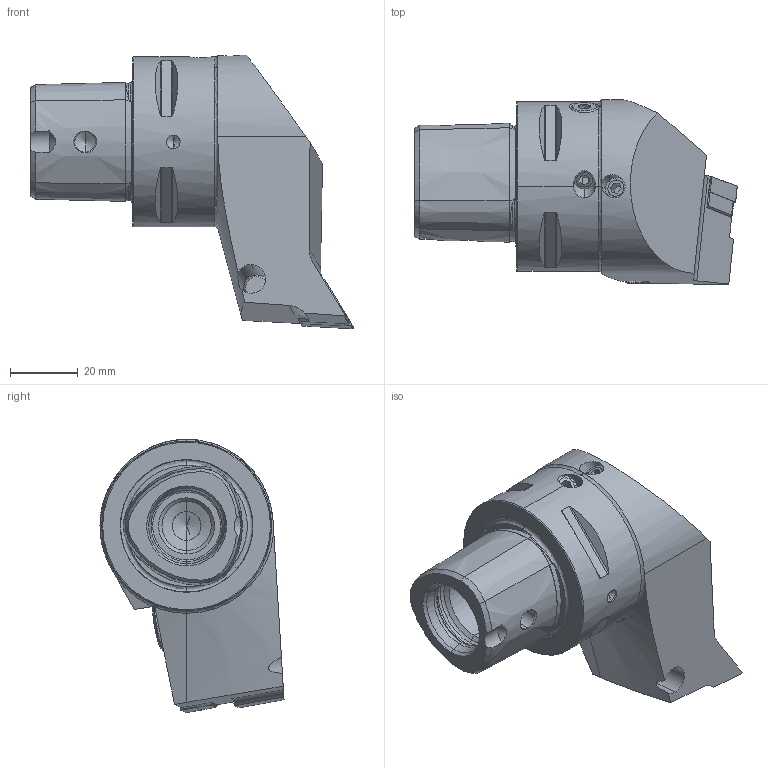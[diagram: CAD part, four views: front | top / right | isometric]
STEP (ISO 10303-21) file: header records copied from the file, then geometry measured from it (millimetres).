
FILE_DESCRIPTION (( 'STEP AP214' ), '1' );
FILE_NAME ('S5-.DF.RJX.065-HPS.STEP', '2023-12-14T07:26:55', ( '' ), ( '' ), 'SwSTEP 2.0', 'SolidWorks 2022', '' );
FILE_SCHEMA (( 'AUTOMOTIVE_DESIGN' ));
Length unit declared in the file: millimetre
Products named in the file (14): PS5-PDF.RJX.065-HPS_A; CHP-ER1.015.006; WDF-ER3.101.000_A; WDF-ER2.101.004_A; DIN 7991 - M5x15; WCD-ER1.101.000; ISO 4026 - M6 x 6; CHP-ER1.008.014_A; DIN 3771 - 13x1; WCD-ER4.101.017_A; ISO 8752 2x8; DNMG150404; S5-.DF.RJX.065-HPS; CHP-ER1.015.006_A
Assembly tree (15 placements, depth 3):
  S5-.DF.RJX.065-HPS
    PS5-PDF.RJX.065-HPS_A
    WDF-ER2.101.004_A
    WCD-ER4.101.017_A
    WDF-ER3.101.000_A
    WCD-ER1.101.000
    ISO 8752 2x8
    CHP-ER1.015.006
      CHP-ER1.015.006_A
      DIN 3771 - 13x1
      DIN 7991 - M5x15
    CHP-ER1.008.014_A
    DNMG150404
    ISO 4026 - M6 x 6  x3
Bounding box: 95.01 x 54.18 x 80.51 mm (x, y, z)
Volume: 129423.1 mm3; surface area: 31181.4 mm2
Topology: 14 solids, 14 shells, 526 faces, 1258 edges, 750 vertices
Faces by surface type: plane 165, cone 156, cylinder 140, torus 53, bspline 12
Entity records: 16620 total; most frequent: CARTESIAN_POINT 4566, DIRECTION 2364, ORIENTED_EDGE 2336, EDGE_CURVE 1168, AXIS2_PLACEMENT_3D 930, VERTEX_POINT 710, EDGE_LOOP 540, LINE 504
